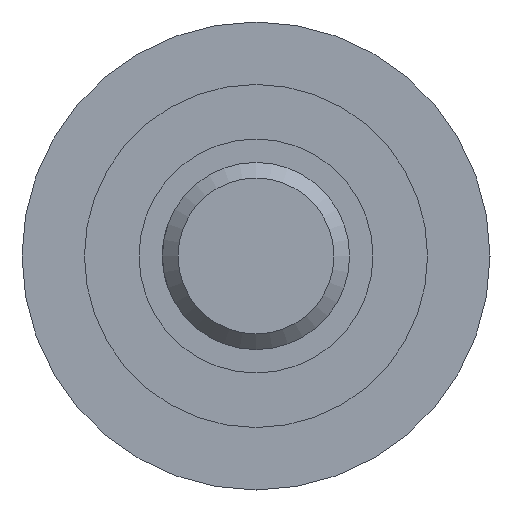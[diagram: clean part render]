
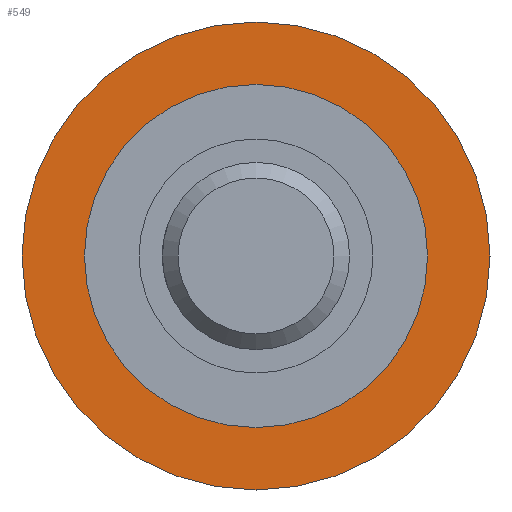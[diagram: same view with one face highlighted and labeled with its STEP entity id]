
A CAD part, left-side view. The second image highlights one B-rep face of the part: STEP entity #549.
In plain terms, the highlighted planar face has unit normal (-1, 0, 0).
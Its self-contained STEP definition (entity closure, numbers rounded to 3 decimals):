
#16=FACE_BOUND('',#131,.T.);
#62=CIRCLE('',#626,11.);
#63=CIRCLE('',#627,11.);
#64=CIRCLE('',#629,15.);
#65=CIRCLE('',#630,15.);
#98=FACE_OUTER_BOUND('',#130,.T.);
#130=EDGE_LOOP('',(#473,#474));
#131=EDGE_LOOP('',(#475,#476));
#255=VERTEX_POINT('',#1000);
#256=VERTEX_POINT('',#1001);
#257=VERTEX_POINT('',#1006);
#258=VERTEX_POINT('',#1007);
#331=EDGE_CURVE('',#255,#256,#62,.T.);
#332=EDGE_CURVE('',#256,#255,#63,.T.);
#334=EDGE_CURVE('',#257,#258,#64,.T.);
#335=EDGE_CURVE('',#258,#257,#65,.T.);
#473=ORIENTED_EDGE('',*,*,#334,.F.);
#474=ORIENTED_EDGE('',*,*,#335,.F.);
#475=ORIENTED_EDGE('',*,*,#331,.T.);
#476=ORIENTED_EDGE('',*,*,#332,.T.);
#521=PLANE('',#628);
#549=ADVANCED_FACE('',(#98,#16),#521,.T.);
#626=AXIS2_PLACEMENT_3D('',#1002,#774,#775);
#627=AXIS2_PLACEMENT_3D('',#1003,#776,#777);
#628=AXIS2_PLACEMENT_3D('',#1005,#779,#780);
#629=AXIS2_PLACEMENT_3D('',#1008,#781,#782);
#630=AXIS2_PLACEMENT_3D('',#1009,#783,#784);
#774=DIRECTION('center_axis',(1.,0.,0.));
#775=DIRECTION('ref_axis',(0.,0.,-1.));
#776=DIRECTION('center_axis',(1.,0.,0.));
#777=DIRECTION('ref_axis',(0.,0.,-1.));
#779=DIRECTION('center_axis',(-1.,0.,0.));
#780=DIRECTION('ref_axis',(0.,0.,1.));
#781=DIRECTION('center_axis',(1.,0.,0.));
#782=DIRECTION('ref_axis',(0.,0.,-1.));
#783=DIRECTION('center_axis',(1.,0.,0.));
#784=DIRECTION('ref_axis',(0.,0.,-1.));
#1000=CARTESIAN_POINT('',(-156.,11.,0.));
#1001=CARTESIAN_POINT('',(-156.,-11.,0.));
#1002=CARTESIAN_POINT('Origin',(-156.,0.,0.));
#1003=CARTESIAN_POINT('Origin',(-156.,0.,0.));
#1005=CARTESIAN_POINT('Origin',(-156.,15.,0.));
#1006=CARTESIAN_POINT('',(-156.,15.,0.));
#1007=CARTESIAN_POINT('',(-156.,-15.,0.));
#1008=CARTESIAN_POINT('Origin',(-156.,0.,0.));
#1009=CARTESIAN_POINT('Origin',(-156.,0.,0.));
